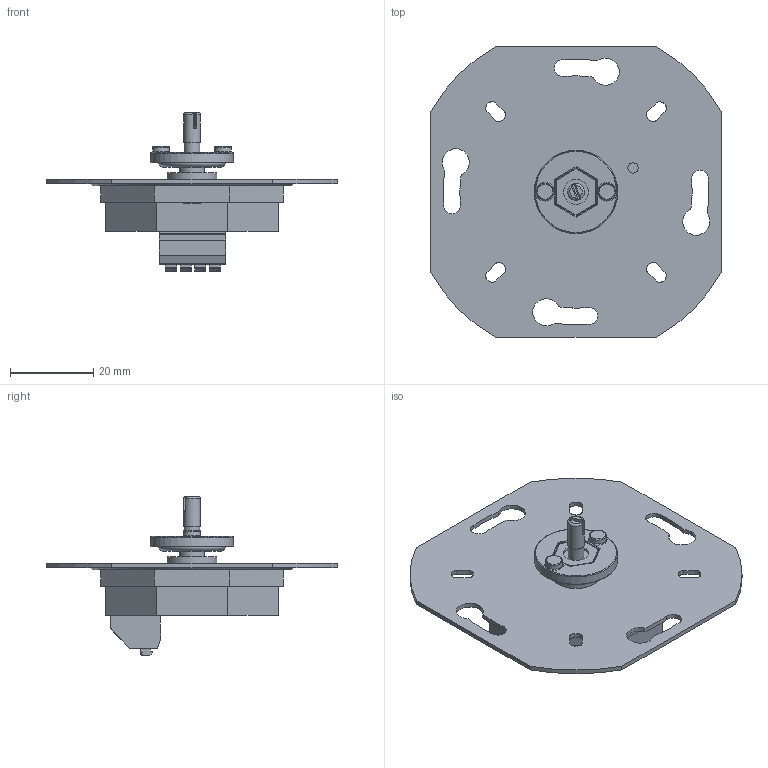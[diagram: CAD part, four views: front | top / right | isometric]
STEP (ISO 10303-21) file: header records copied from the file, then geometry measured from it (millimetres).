
FILE_DESCRIPTION(/* description */ ('Unknown'),/* implementation_level */ '2;1');
FILE_NAME(/* name */ 'DALIRotary',/* time_stamp */ '2023-07-15T22:08:17+02:00',/* author */ ('Unknown'),/* organization */ ('Unknown'),/* preprocessor_version */ 'ST-DEVELOPER v16.7',/* originating_system */ 'DEX',/* authorisation */ $);
FILE_SCHEMA (('AUTOMOTIVE_DESIGN {1 0 10303 214 3 1 1}'));
Length unit declared in the file: millimetre
Products named in the file (3): AsmRotaryPSandHousing; asmROT; Mutter
Assembly tree (2 placements, depth 2):
  AsmRotaryPSandHousing
    asmROT
    Mutter
Bounding box: 70 x 70 x 38.24 mm (x, y, z)
Volume: 24244.4 mm3; surface area: 13583.5 mm2
Topology: 2 solids, 2 shells, 302 faces, 795 edges, 518 vertices
Faces by surface type: plane 186, cylinder 91, cone 14, torus 9, bspline 2
Full cylindrical faces by diameter (mm): 1.5 x2, 2.5 x1, 3 x3, 3.8 x1, 4 x1, 6 x3, 7 x1, 7.241 x1, 9.6 x1, 12 x1, 21.438 x1
Entity records: 11270 total; most frequent: CARTESIAN_POINT 1686, DIRECTION 1528, ORIENTED_EDGE 1502, EDGE_CURVE 751, LINE 522, VECTOR 522, AXIS2_PLACEMENT_3D 503, VERTEX_POINT 501
